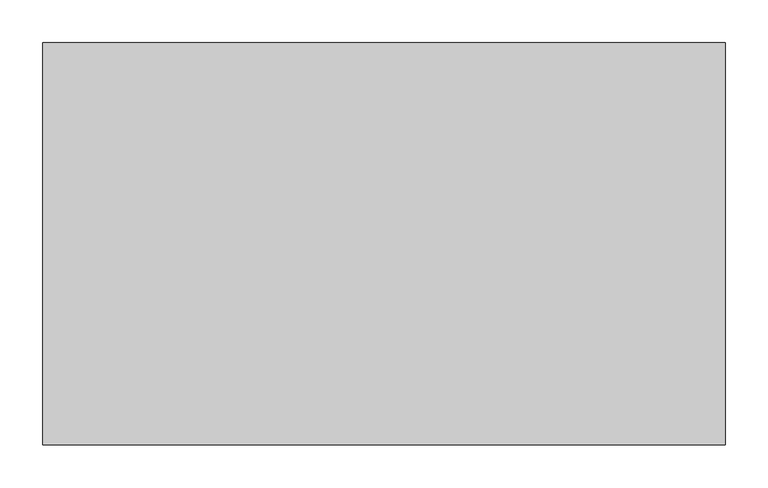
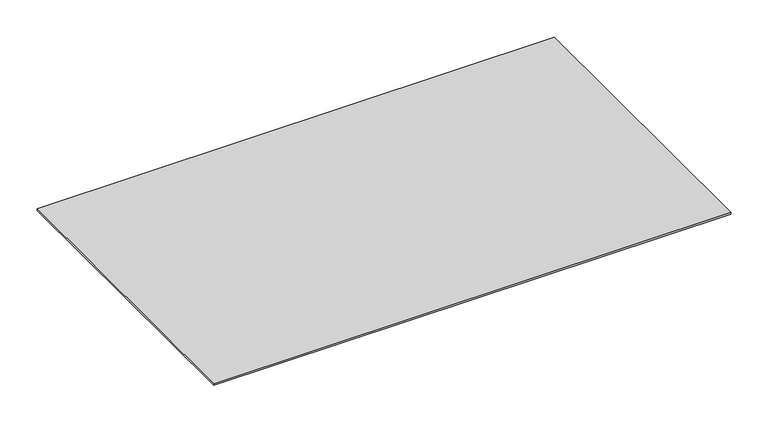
"""IFC4 building model written with IfcOpenShell, lengths in millimetres: proxy geometry, Electrical_Installation_Hager_Blank-Cover-BKA : Electrical_Installation_Hager_Blank-Cover-BKA."""

from ifc_helpers import new_model, si_unit, frame, origin, place, context, project, spatial, polyline, outline, extrude, source, transform, mapped, element, save


def electrical_fixtures_b1f2edc7(model_context):
    return source(origin(), model_context, "Body", "SweptSolid", [
        extrude(outline(polyline([(796.045256, 234.75), (796.045256, -234.75), (0.0, -234.75), (0.0, 234.75), (796.045256, 234.75)])), frame((0.0, 0.0, 10.0), z_axis=(0.0, 0.0, 1.0), x_axis=(1.0, 0.0, 0.0)), (0.0, 0.0, 1.0), 3.0),
    ])


if __name__ == "__main__":
    model = new_model("IFC4")
    model_context = context("Model", 3, world=origin())
    ifc_project = project(units=[si_unit("LENGTHUNIT", "METRE", prefix="MILLI")], contexts=[model_context])
    site = spatial("IfcSite", under=ifc_project)
    building = spatial("IfcBuilding", under=site)
    placement = place(None, origin())
    electrical_fixtures_shape = electrical_fixtures_b1f2edc7(model_context)
    element("IfcBuildingElementProxy", 1, Name="Electrical_Installation_Hager_Blank-Cover-BKA : Electrical_Installation_Hager_Blank-Cover-BKA", ObjectType="Electrical_Installation_Hager_Blank-Cover-BKA : Electrical_Installation_Hager_Blank-Cover-BKA", at=placement, inside=building, context=model_context, shape_type="MappedRepresentation", body=[
        mapped(electrical_fixtures_shape, transform((0.0, 0.0, 0.0), x_axis=(1.0, 0.0, 0.0), y_axis=(0.0, 1.0, 0.0), z_axis=(0.0, 0.0, 1.0))),
    ])
    save(model, "model.ifc")
